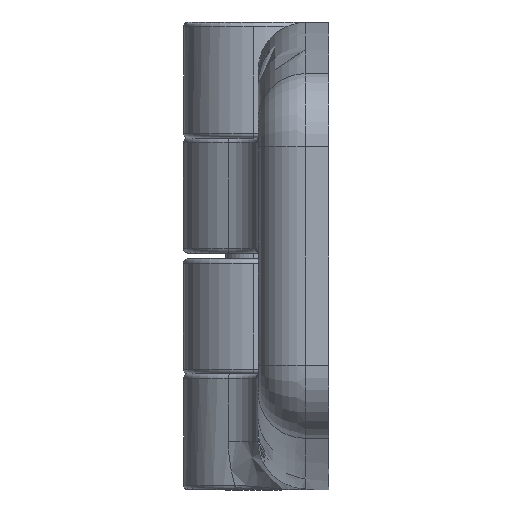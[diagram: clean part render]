
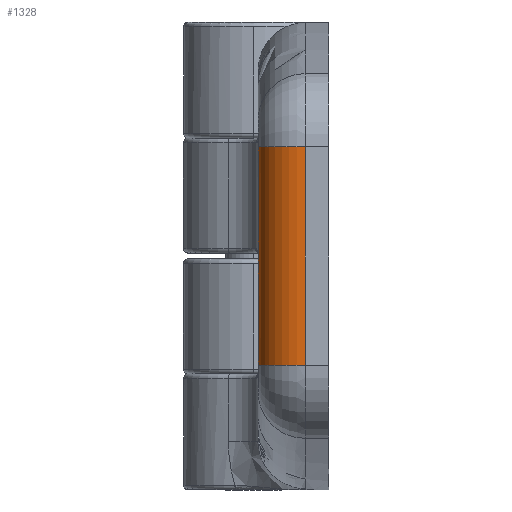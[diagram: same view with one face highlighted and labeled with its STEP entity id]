
A CAD part, left-side view. The second image highlights one B-rep face of the part: STEP entity #1328.
In plain terms, the highlighted cylindrical face has radius 5 mm (diameter 10 mm), a partial arc.
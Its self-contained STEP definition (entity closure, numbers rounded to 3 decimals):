
#1247 = EDGE_CURVE ( 'NONE', #1262, #1254, #4097, .T. ) ;
#1251 = VERTEX_POINT ( 'NONE', #4092 ) ;
#1254 = VERTEX_POINT ( 'NONE', #4043 ) ;
#1259 = VERTEX_POINT ( 'NONE', #4091 ) ;
#1261 = EDGE_CURVE ( 'NONE', #1259, #1251, #4077, .T. ) ;
#1262 = VERTEX_POINT ( 'NONE', #4084 ) ;
#1324 = VERTEX_POINT ( 'NONE', #4202 ) ;
#1328 = ADVANCED_FACE ( 'NONE', ( #4204 ), #4199, .T. ) ;
#1329 = EDGE_CURVE ( 'NONE', #1259, #1335, #4257, .T. ) ;
#1330 = ORIENTED_EDGE ( 'NONE', *, *, #1247, .F. ) ;
#1331 = ORIENTED_EDGE ( 'NONE', *, *, #1329, .T. ) ;
#1332 = ORIENTED_EDGE ( 'NONE', *, *, #1261, .F. ) ;
#1333 = ORIENTED_EDGE ( 'NONE', *, *, #1384, .T. ) ;
#1334 = EDGE_CURVE ( 'NONE', #1324, #1335, #4245, .T. ) ;
#1335 = VERTEX_POINT ( 'NONE', #4256 ) ;
#1344 = ORIENTED_EDGE ( 'NONE', *, *, #1390, .T. ) ;
#1372 = EDGE_LOOP ( 'NONE', ( #1330, #1344, #1332, #1331, #1383, #1333 ) ) ;
#1383 = ORIENTED_EDGE ( 'NONE', *, *, #1334, .F. ) ;
#1384 = EDGE_CURVE ( 'NONE', #1324, #1254, #4389, .T. ) ;
#1390 = EDGE_CURVE ( 'NONE', #1262, #1251, #4423, .T. ) ;
#4043 = CARTESIAN_POINT ( 'NONE',  ( 53., 7.5, 13.351 ) ) ;
#4076 = VECTOR ( 'NONE', #4135, 1000. ) ;
#4077 = LINE ( 'NONE', #4080, #4076 ) ;
#4080 = CARTESIAN_POINT ( 'NONE',  ( 53., 7.5, 13.351 ) ) ;
#4084 = CARTESIAN_POINT ( 'NONE',  ( 53., 7.5, 22.96 ) ) ;
#4091 = CARTESIAN_POINT ( 'NONE',  ( 53., 7.5, 36.649 ) ) ;
#4092 = CARTESIAN_POINT ( 'NONE',  ( 53., 7.5, 27.04 ) ) ;
#4095 = DIRECTION ( 'NONE',  ( 0., 0., -1. ) ) ;
#4096 = VECTOR ( 'NONE', #4095, 1000. ) ;
#4097 = LINE ( 'NONE', #4102, #4096 ) ;
#4102 = CARTESIAN_POINT ( 'NONE',  ( 53., 7.5, 13.351 ) ) ;
#4135 = DIRECTION ( 'NONE',  ( 0., 0., -1. ) ) ;
#4199 = CYLINDRICAL_SURFACE ( 'NONE', #4246, 5. ) ;
#4202 = CARTESIAN_POINT ( 'NONE',  ( 58., 2.5, 13.351 ) ) ;
#4204 = FACE_OUTER_BOUND ( 'NONE', #1372, .T. ) ;
#4234 = DIRECTION ( 'NONE',  ( 0., 0., 1. ) ) ;
#4235 = VECTOR ( 'NONE', #4234, 1000. ) ;
#4236 = CARTESIAN_POINT ( 'NONE',  ( 58., 2.5, 36.649 ) ) ;
#4238 = DIRECTION ( 'NONE',  ( -1., 0., 0. ) ) ;
#4239 = DIRECTION ( 'NONE',  ( 0., 0., -1. ) ) ;
#4242 = DIRECTION ( 'NONE',  ( 1., 0., 0. ) ) ;
#4243 = DIRECTION ( 'NONE',  ( 0., 0., 1. ) ) ;
#4244 = CARTESIAN_POINT ( 'NONE',  ( 53., 2.5, 50. ) ) ;
#4245 = LINE ( 'NONE', #4236, #4235 ) ;
#4246 = AXIS2_PLACEMENT_3D ( 'NONE', #4244, #4243, #4242 ) ;
#4252 = AXIS2_PLACEMENT_3D ( 'NONE', #4255, #4239, #4238 ) ;
#4255 = CARTESIAN_POINT ( 'NONE',  ( 53., 2.5, 36.649 ) ) ;
#4256 = CARTESIAN_POINT ( 'NONE',  ( 58., 2.5, 36.649 ) ) ;
#4257 = CIRCLE ( 'NONE', #4252, 5. ) ;
#4325 = AXIS2_PLACEMENT_3D ( 'NONE', #4344, #4373, #4372 ) ;
#4344 = CARTESIAN_POINT ( 'NONE',  ( 53., 2.5, 13.351 ) ) ;
#4372 = DIRECTION ( 'NONE',  ( 1., 0., 0. ) ) ;
#4373 = DIRECTION ( 'NONE',  ( 0., 0., 1. ) ) ;
#4389 = CIRCLE ( 'NONE', #4325, 5. ) ;
#4392 = CARTESIAN_POINT ( 'NONE',  ( 53., 7.5, 27.04 ) ) ;
#4393 = CARTESIAN_POINT ( 'NONE',  ( 53.132, 7.5, 26.717 ) ) ;
#4394 = CARTESIAN_POINT ( 'NONE',  ( 53.231, 7.495, 26.385 ) ) ;
#4395 = CARTESIAN_POINT ( 'NONE',  ( 53.366, 7.487, 25.7 ) ) ;
#4396 = CARTESIAN_POINT ( 'NONE',  ( 53.4, 7.484, 25.348 ) ) ;
#4397 = CARTESIAN_POINT ( 'NONE',  ( 53.4, 7.484, 24.653 ) ) ;
#4398 = CARTESIAN_POINT ( 'NONE',  ( 53.367, 7.487, 24.307 ) ) ;
#4399 = CARTESIAN_POINT ( 'NONE',  ( 53.232, 7.495, 23.618 ) ) ;
#4400 = CARTESIAN_POINT ( 'NONE',  ( 53.131, 7.5, 23.283 ) ) ;
#4401 = CARTESIAN_POINT ( 'NONE',  ( 53., 7.5, 22.96 ) ) ;
#4423 = B_SPLINE_CURVE_WITH_KNOTS ( 'NONE', 3,
 ( #4401, #4400, #4399, #4398, #4397, #4396, #4395, #4394, #4393, #4392 ),
 .UNSPECIFIED., .F., .F.,
 ( 4, 2, 2, 2, 4 ),
 ( 0.008, 0.009, 0.01, 0.011, 0.012 ),
 .UNSPECIFIED. ) ;
